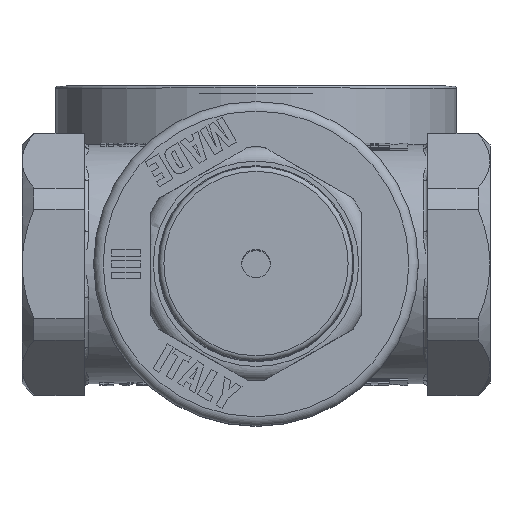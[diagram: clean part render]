
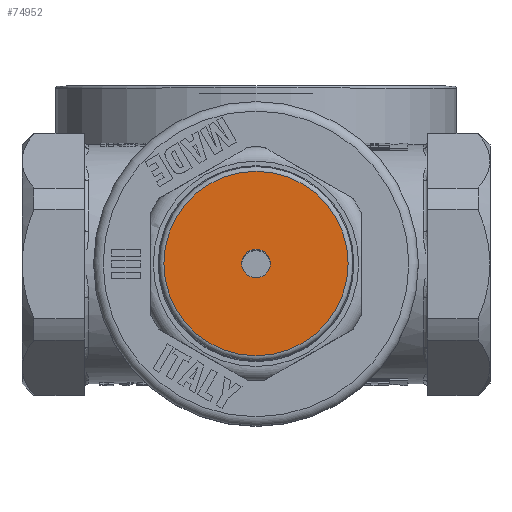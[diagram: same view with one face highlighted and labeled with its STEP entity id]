
A CAD part, top view. The second image highlights one B-rep face of the part: STEP entity #74952.
In plain terms, the highlighted planar face has unit normal (0, 0, 1).
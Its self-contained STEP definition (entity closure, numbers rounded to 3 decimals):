
#74876=CARTESIAN_POINT('',(-9.65,0.,49.));
#74877=VERTEX_POINT('',#74876);
#74904=CARTESIAN_POINT('',(9.65,-0.,49.));
#74905=VERTEX_POINT('',#74904);
#74906=CARTESIAN_POINT('',(0.,-0.,49.));
#74907=DIRECTION('',(0.,-0.,-1.));
#74908=DIRECTION('',(1.,0.,0.));
#74909=AXIS2_PLACEMENT_3D('',#74906,#74907,#74908);
#74910=CIRCLE('',#74909,9.65);
#74911=EDGE_CURVE('',#74877,#74905,#74910,.T.);
#74913=CARTESIAN_POINT('',(0.,-0.,49.));
#74914=DIRECTION('',(0.,-0.,-1.));
#74915=DIRECTION('',(1.,0.,0.));
#74916=AXIS2_PLACEMENT_3D('',#74913,#74914,#74915);
#74917=CIRCLE('',#74916,9.65);
#74918=EDGE_CURVE('',#74905,#74877,#74917,.T.);
#74923=CARTESIAN_POINT('',(-1.5,0.,49.));
#74924=DIRECTION('',(-0.,0.,1.));
#74925=DIRECTION('',(-1.,0.,-0.));
#74926=AXIS2_PLACEMENT_3D('',#74923,#74924,#74925);
#74927=PLANE('',#74926);
#74928=ORIENTED_EDGE('',*,*,#74911,.F.);
#74929=ORIENTED_EDGE('',*,*,#74918,.F.);
#74930=EDGE_LOOP('',(#74928,#74929));
#74931=FACE_BOUND('',#74930,.T.);
#74932=CARTESIAN_POINT('',(-1.5,0.,49.));
#74933=VERTEX_POINT('',#74932);
#74934=CARTESIAN_POINT('',(1.5,-0.,49.));
#74935=VERTEX_POINT('',#74934);
#74936=CARTESIAN_POINT('',(0.,-0.,49.));
#74937=DIRECTION('',(-0.,0.,1.));
#74938=DIRECTION('',(1.,0.,0.));
#74939=AXIS2_PLACEMENT_3D('',#74936,#74937,#74938);
#74940=CIRCLE('',#74939,1.5);
#74941=EDGE_CURVE('',#74933,#74935,#74940,.T.);
#74942=ORIENTED_EDGE('',*,*,#74941,.F.);
#74943=CARTESIAN_POINT('',(0.,-0.,49.));
#74944=DIRECTION('',(-0.,0.,1.));
#74945=DIRECTION('',(1.,0.,0.));
#74946=AXIS2_PLACEMENT_3D('',#74943,#74944,#74945);
#74947=CIRCLE('',#74946,1.5);
#74948=EDGE_CURVE('',#74935,#74933,#74947,.T.);
#74949=ORIENTED_EDGE('',*,*,#74948,.F.);
#74950=EDGE_LOOP('',(#74942,#74949));
#74951=FACE_BOUND('',#74950,.T.);
#74952=ADVANCED_FACE('',(#74931,#74951),#74927,.T.);
